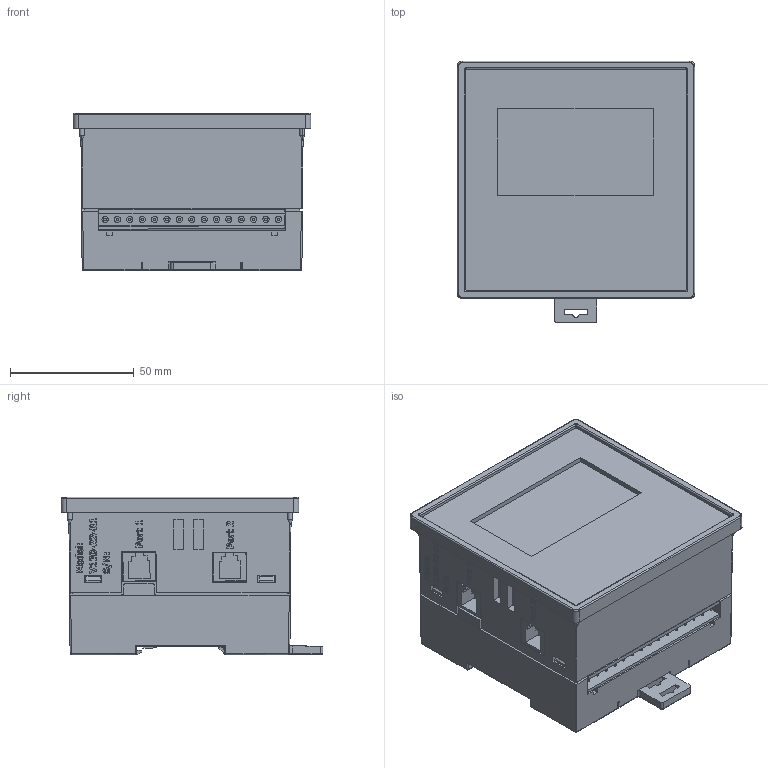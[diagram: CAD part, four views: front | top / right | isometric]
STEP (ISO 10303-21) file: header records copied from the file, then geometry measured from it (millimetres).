
FILE_DESCRIPTION (( 'STEP AP214' ), '1' );
FILE_NAME ('V120.STEP', '2024-04-24T09:19:06', ( '' ), ( '' ), 'SwSTEP 2.0', 'SolidWorks 2022', '' );
FILE_SCHEMA (( 'AUTOMOTIVE_DESIGN' ));
Length unit declared in the file: millimetre
Products named in the file (1): V120
Bounding box: 96 x 105.72 x 63.8 mm (x, y, z)
Volume: 456586.5 mm3; surface area: 96676.3 mm2
Topology: 1 solids, 2 shells, 1328 faces, 3633 edges, 2399 vertices
Faces by surface type: plane 950, cylinder 250, bspline 108, cone 12, torus 8
Entity records: 66552 total; most frequent: CARTESIAN_POINT 19702, ORIENTED_EDGE 7256, DIRECTION 5677, EDGE_CURVE 3628, LINE 2477, VECTOR 2477, VERTEX_POINT 2399, AXIS2_PLACEMENT_3D 1600
